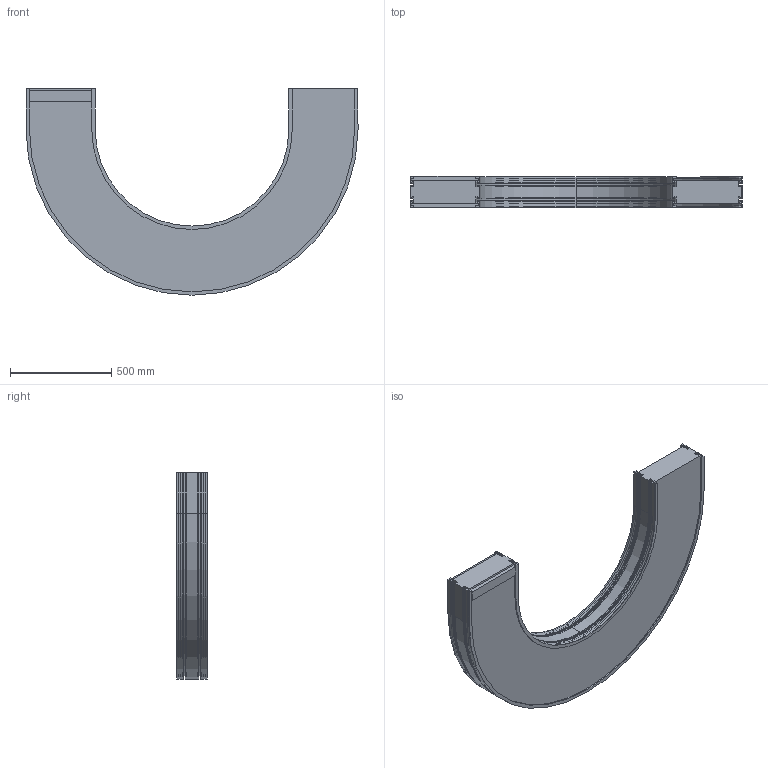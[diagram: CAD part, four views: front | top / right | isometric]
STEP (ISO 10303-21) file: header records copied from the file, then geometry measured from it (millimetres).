
FILE_DESCRIPTION (( 'STEP AP203' ), '1' );
FILE_NAME ('F2-1200-C180.STEP', '2009-01-23T07:49:56', ( 'faber' ), ( '' ), 'SwSTEP 2.0', 'SolidWorks 2008', '' );
FILE_SCHEMA (( 'CONFIG_CONTROL_DESIGN' ));
Length unit declared in the file: millimetre
Products named in the file (3): F2-1200-C180; Courbe_   1200; Tapis_1200
Assembly tree (3 placements, depth 2):
  F2-1200-C180
    Tapis_1200  x2
    Courbe_   1200
Bounding box: 1642 x 152.88 x 1021 mm (x, y, z)
Volume: 94606965.5 mm3; surface area: 3837646 mm2
Topology: 3 solids, 3 shells, 232 faces, 678 edges, 452 vertices
Faces by surface type: plane 148, cylinder 84
Entity records: 7743 total; most frequent: CARTESIAN_POINT 1318, ORIENTED_EDGE 1308, DIRECTION 1278, EDGE_CURVE 654, LINE 486, VECTOR 486, VERTEX_POINT 436, AXIS2_PLACEMENT_3D 396
